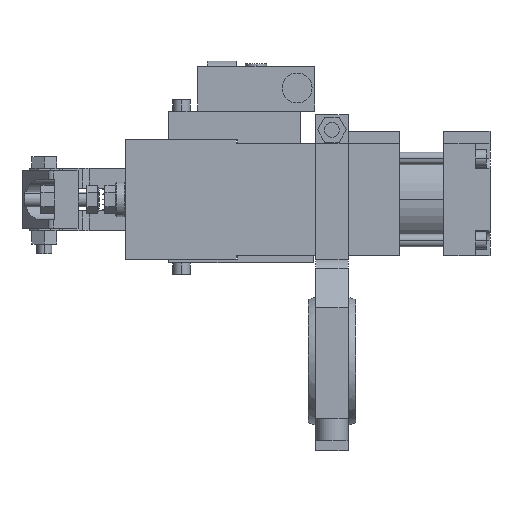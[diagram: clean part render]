
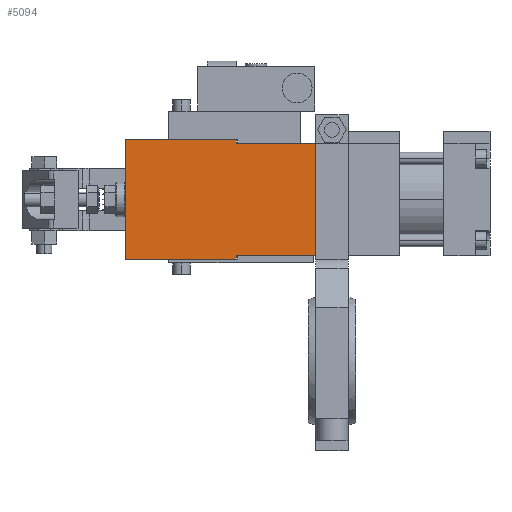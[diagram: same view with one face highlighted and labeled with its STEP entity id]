
A CAD part, left-side view. The second image highlights one B-rep face of the part: STEP entity #5094.
In plain terms, the highlighted planar face has unit normal (-1, 0, 0).
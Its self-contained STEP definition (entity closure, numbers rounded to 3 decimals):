
#1869 = ORIENTED_EDGE ( 'NONE', *, *, #4491, .F. ) ;
#1923 = CARTESIAN_POINT ( 'NONE',  ( -22.5, 22., -22.5 ) ) ;
#2432 = LINE ( 'NONE', #23969, #21478 ) ;
#2470 = VERTEX_POINT ( 'NONE', #20643 ) ;
#2677 = VECTOR ( 'NONE', #23377, 1000. ) ;
#2863 = VECTOR ( 'NONE', #20198, 1000. ) ;
#2960 = ORIENTED_EDGE ( 'NONE', *, *, #13295, .F. ) ;
#3141 = ORIENTED_EDGE ( 'NONE', *, *, #11667, .F. ) ;
#3264 = LINE ( 'NONE', #9981, #2677 ) ;
#3283 = CARTESIAN_POINT ( 'NONE',  ( -22.5, 22., 22.5 ) ) ;
#3640 = VECTOR ( 'NONE', #24259, 1000. ) ;
#4355 = DIRECTION ( 'NONE',  ( 1., 0., 0. ) ) ;
#4491 = EDGE_CURVE ( 'NONE', #21119, #7833, #8712, .T. ) ;
#4493 = CARTESIAN_POINT ( 'NONE',  ( -22.5, -8., 24. ) ) ;
#4700 = CARTESIAN_POINT ( 'NONE',  ( -22.5, -8., -24. ) ) ;
#4994 = DIRECTION ( 'NONE',  ( 0., 0., -1. ) ) ;
#5094 = ADVANCED_FACE ( 'NONE', ( #10511 ), #23340, .F. ) ;
#5586 = CARTESIAN_POINT ( 'NONE',  ( -22.5, -40., 22.5 ) ) ;
#5823 = DIRECTION ( 'NONE',  ( 0., -1., 0. ) ) ;
#6745 = EDGE_CURVE ( 'NONE', #8020, #9753, #13379, .T. ) ;
#6829 = CARTESIAN_POINT ( 'NONE',  ( -22.5, 36.5, 24. ) ) ;
#6913 = ORIENTED_EDGE ( 'NONE', *, *, #18565, .T. ) ;
#7053 = ORIENTED_EDGE ( 'NONE', *, *, #6745, .T. ) ;
#7732 = VECTOR ( 'NONE', #19926, 1000. ) ;
#7833 = VERTEX_POINT ( 'NONE', #5586 ) ;
#7959 = CARTESIAN_POINT ( 'NONE',  ( -22.5, -8., 22.5 ) ) ;
#8020 = VERTEX_POINT ( 'NONE', #9489 ) ;
#8712 = LINE ( 'NONE', #3283, #3640 ) ;
#9489 = CARTESIAN_POINT ( 'NONE',  ( -22.5, -8., -24. ) ) ;
#9753 = VERTEX_POINT ( 'NONE', #18212 ) ;
#9831 = LINE ( 'NONE', #1923, #14302 ) ;
#9981 = CARTESIAN_POINT ( 'NONE',  ( -22.5, 22., -24. ) ) ;
#9996 = CARTESIAN_POINT ( 'NONE',  ( -22.5, -40., 12.5 ) ) ;
#10511 = FACE_OUTER_BOUND ( 'NONE', #15126, .T. ) ;
#11443 = VECTOR ( 'NONE', #21267, 1000. ) ;
#11667 = EDGE_CURVE ( 'NONE', #2470, #18241, #16506, .T. ) ;
#13020 = VECTOR ( 'NONE', #23313, 1000. ) ;
#13295 = EDGE_CURVE ( 'NONE', #18241, #21119, #2432, .T. ) ;
#13379 = LINE ( 'NONE', #4700, #7732 ) ;
#13711 = CARTESIAN_POINT ( 'NONE',  ( -22.5, 36.5, -24. ) ) ;
#14000 = ORIENTED_EDGE ( 'NONE', *, *, #18876, .T. ) ;
#14068 = ORIENTED_EDGE ( 'NONE', *, *, #20752, .F. ) ;
#14302 = VECTOR ( 'NONE', #5823, 1000. ) ;
#15126 = EDGE_LOOP ( 'NONE', ( #3141, #14068, #14000, #7053, #6913, #24363, #1869, #2960 ) ) ;
#15531 = CARTESIAN_POINT ( 'NONE',  ( -22.5, 22., 24. ) ) ;
#16032 = EDGE_CURVE ( 'NONE', #7833, #22576, #22537, .T. ) ;
#16506 = LINE ( 'NONE', #15531, #11443 ) ;
#17682 = DIRECTION ( 'NONE',  ( 0., 1., 0. ) ) ;
#18212 = CARTESIAN_POINT ( 'NONE',  ( -22.5, -8., -22.5 ) ) ;
#18241 = VERTEX_POINT ( 'NONE', #4493 ) ;
#18565 = EDGE_CURVE ( 'NONE', #9753, #22576, #9831, .T. ) ;
#18876 = EDGE_CURVE ( 'NONE', #21143, #8020, #3264, .T. ) ;
#19499 = CARTESIAN_POINT ( 'NONE',  ( -22.5, 22., 12.5 ) ) ;
#19926 = DIRECTION ( 'NONE',  ( 0., 0., 1. ) ) ;
#20198 = DIRECTION ( 'NONE',  ( 0., 0., 1. ) ) ;
#20643 = CARTESIAN_POINT ( 'NONE',  ( -22.5, 36.5, 24. ) ) ;
#20752 = EDGE_CURVE ( 'NONE', #21143, #2470, #23090, .T. ) ;
#21119 = VERTEX_POINT ( 'NONE', #7959 ) ;
#21143 = VERTEX_POINT ( 'NONE', #13711 ) ;
#21267 = DIRECTION ( 'NONE',  ( 0., -1., 0. ) ) ;
#21478 = VECTOR ( 'NONE', #4994, 1000. ) ;
#21891 = AXIS2_PLACEMENT_3D ( 'NONE', #19499, #4355, #17682 ) ;
#22537 = LINE ( 'NONE', #9996, #13020 ) ;
#22576 = VERTEX_POINT ( 'NONE', #22971 ) ;
#22971 = CARTESIAN_POINT ( 'NONE',  ( -22.5, -40., -22.5 ) ) ;
#23090 = LINE ( 'NONE', #6829, #2863 ) ;
#23313 = DIRECTION ( 'NONE',  ( 0., 0., -1. ) ) ;
#23340 = PLANE ( 'NONE',  #21891 ) ;
#23377 = DIRECTION ( 'NONE',  ( 0., -1., 0. ) ) ;
#23969 = CARTESIAN_POINT ( 'NONE',  ( -22.5, -8., 24. ) ) ;
#24259 = DIRECTION ( 'NONE',  ( 0., -1., 0. ) ) ;
#24363 = ORIENTED_EDGE ( 'NONE', *, *, #16032, .F. ) ;
